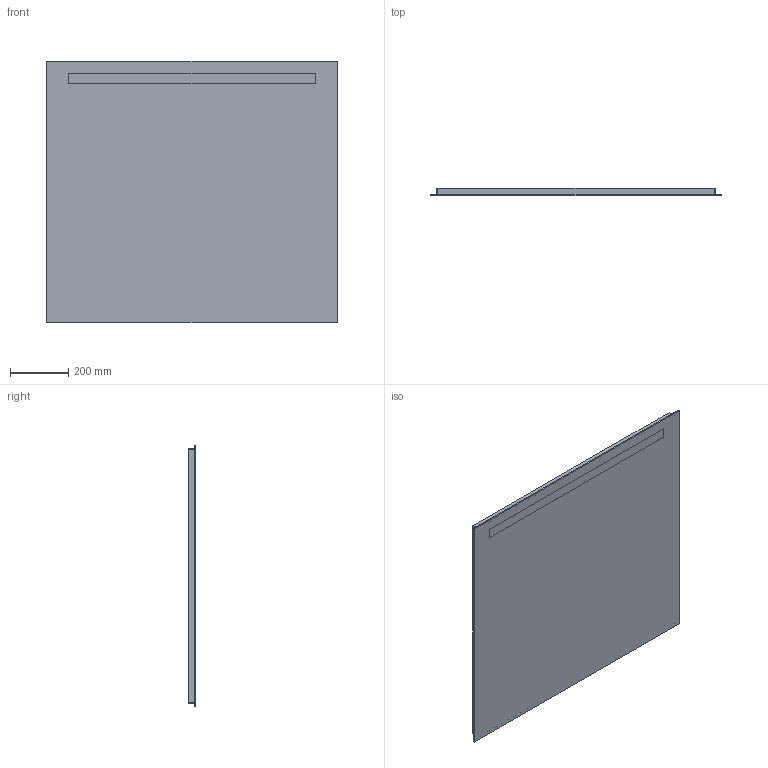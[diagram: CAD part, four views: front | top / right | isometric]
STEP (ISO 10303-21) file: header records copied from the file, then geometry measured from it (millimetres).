
FILE_DESCRIPTION(/* description */ (''),/* implementation_level */ '2;1');
FILE_NAME(/* name */ 'C:\Planerdaten\Export PLA\502.814.00.1\stp\502814.stp',/* time_stamp */ '2022-12-02T15:16:18+01:00',/* author */ ('JANAN'),/* organization */ (''),/* preprocessor_version */ 'ST-DEVELOPER v18.1',/* originating_system */ 'Autodesk Inventor 2021',/* authorisation */ '');
FILE_SCHEMA (('AUTOMOTIVE_DESIGN { 1 0 10303 214 3 1 1 }'));
Length unit declared in the file: millimetre
Products named in the file (1): tmp3B71.tmp
Bounding box: 1000 x 26 x 900 mm (x, y, z)
Volume: 22180444.4 mm3; surface area: 3586813.5 mm2
Topology: 2 solids, 2 shells, 29 faces, 68 edges, 48 vertices
Faces by surface type: plane 21, cylinder 8
Full cylindrical faces by diameter (mm): 8 x4
Entity records: 937 total; most frequent: DIRECTION 152, CARTESIAN_POINT 146, ORIENTED_EDGE 136, EDGE_CURVE 68, AXIS2_PLACEMENT_3D 54, VERTEX_POINT 48, LINE 44, VECTOR 44
